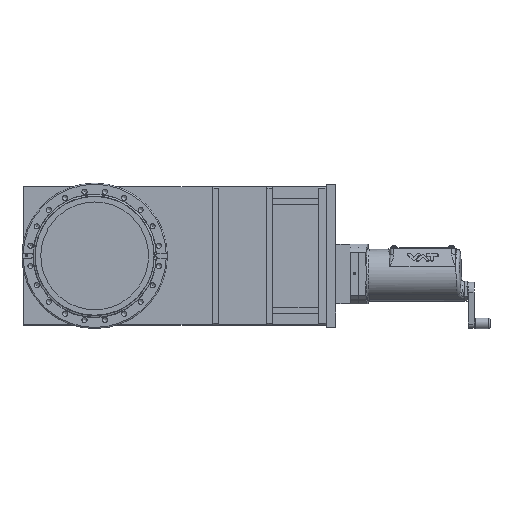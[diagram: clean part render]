
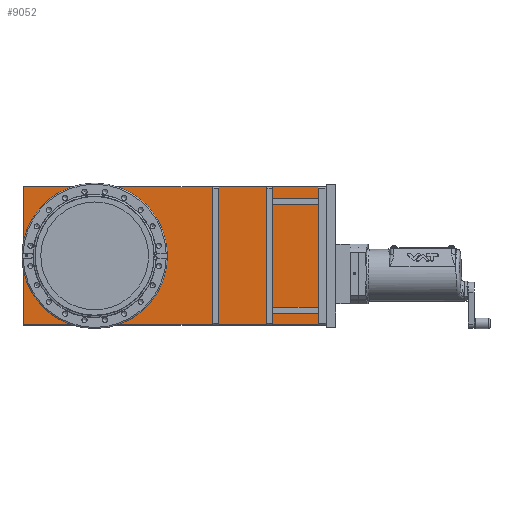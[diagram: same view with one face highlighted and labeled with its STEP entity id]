
A CAD part, top view. The second image highlights one B-rep face of the part: STEP entity #9052.
In plain terms, the highlighted planar face has unit normal (0, 0, 1).
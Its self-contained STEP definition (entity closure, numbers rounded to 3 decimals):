
#9052=ADVANCED_FACE('',(#11865,#11866),#9824,.F.);
#9824=PLANE('',#20506);
#10255=LINE('',#25282,#11063);
#10257=LINE('',#25286,#11065);
#10259=LINE('',#25290,#11067);
#10261=LINE('',#25294,#11069);
#11063=VECTOR('',#21831,1.);
#11065=VECTOR('',#21835,1.);
#11067=VECTOR('',#21839,1.);
#11069=VECTOR('',#21843,1.);
#11865=FACE_BOUND('',#12526,.T.);
#11866=FACE_BOUND('',#12527,.T.);
#12526=EDGE_LOOP('',(#13660));
#12527=EDGE_LOOP('',(#13661,#13662,#13663,#13664));
#13660=ORIENTED_EDGE('',*,*,#18325,.T.);
#13661=ORIENTED_EDGE('',*,*,#18318,.F.);
#13662=ORIENTED_EDGE('',*,*,#18316,.T.);
#13663=ORIENTED_EDGE('',*,*,#18322,.F.);
#13664=ORIENTED_EDGE('',*,*,#18320,.F.);
#17024=VERTEX_POINT('',#25281);
#17025=VERTEX_POINT('',#25283);
#17026=VERTEX_POINT('',#25287);
#17027=VERTEX_POINT('',#25291);
#17030=VERTEX_POINT('',#25302);
#18316=EDGE_CURVE('',#17025,#17024,#10255,.T.);
#18318=EDGE_CURVE('',#17025,#17026,#10257,.T.);
#18320=EDGE_CURVE('',#17026,#17027,#10259,.T.);
#18322=EDGE_CURVE('',#17027,#17024,#10261,.T.);
#18325=EDGE_CURVE('',#17030,#17030,#19996,.T.);
#19996=CIRCLE('',#20505,75.3);
#20505=AXIS2_PLACEMENT_3D('',#25301,#21852,#21853);
#20506=AXIS2_PLACEMENT_3D('',#25303,#21854,#21855);
#21831=DIRECTION('',(0.,1.,0.));
#21835=DIRECTION('',(-1.,0.,0.));
#21839=DIRECTION('',(0.,1.,0.));
#21843=DIRECTION('',(1.,0.,0.));
#21852=DIRECTION('',(0.,0.,-1.));
#21853=DIRECTION('',(0.,1.,0.));
#21854=DIRECTION('',(0.,0.,-1.));
#21855=DIRECTION('',(0.,1.,0.));
#25281=CARTESIAN_POINT('',(322.3,96.225,27.));
#25282=CARTESIAN_POINT('',(322.3,0.,27.));
#25283=CARTESIAN_POINT('',(322.3,-96.225,27.));
#25286=CARTESIAN_POINT('',(323.6,-96.225,27.));
#25287=CARTESIAN_POINT('',(-98.55,-96.225,27.));
#25290=CARTESIAN_POINT('',(-98.55,-96.225,27.));
#25291=CARTESIAN_POINT('',(-98.55,96.225,27.));
#25294=CARTESIAN_POINT('',(-98.55,96.225,27.));
#25301=CARTESIAN_POINT('',(0.,0.,27.));
#25302=CARTESIAN_POINT('',(0.,75.3,27.));
#25303=CARTESIAN_POINT('',(0.,0.,27.));
